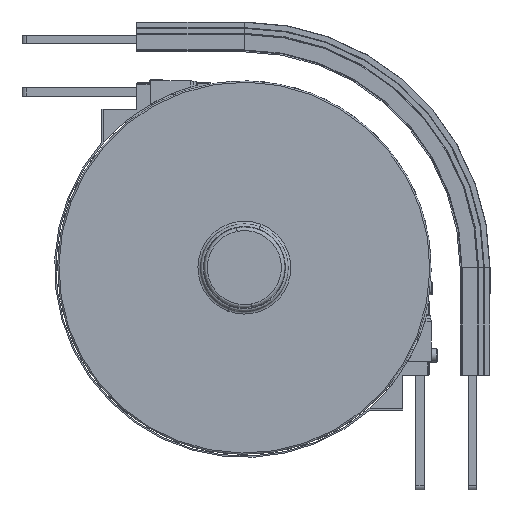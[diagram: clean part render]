
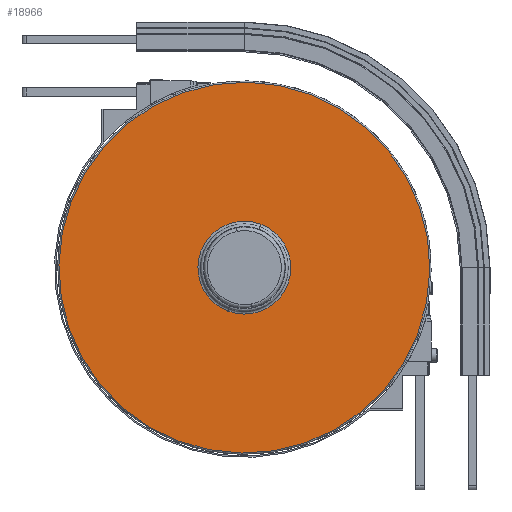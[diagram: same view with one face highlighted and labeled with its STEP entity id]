
A CAD part, front view. The second image highlights one B-rep face of the part: STEP entity #18966.
In plain terms, the highlighted planar face has unit normal (0, -1, 0) as drawn and (0, 0, 1) by its records, which use the part's own axes.
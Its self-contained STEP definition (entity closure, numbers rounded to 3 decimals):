
#2003 = VERTEX_POINT ( 'NONE', #14823 ) ;
#2136 = VERTEX_POINT ( 'NONE', #14889 ) ;
#4485 = AXIS2_PLACEMENT_3D ( 'NONE', #7452, #7453, #7454 ) ;
#4705 = AXIS2_PLACEMENT_3D ( 'NONE', #7834, #7835, #7836 ) ;
#4764 = CIRCLE ( 'NONE', #4485, 137.8 ) ;
#4874 = CIRCLE ( 'NONE', #4705, 34.5 ) ;
#7452 = CARTESIAN_POINT ( 'NONE',  ( 895.8, 0., 21.9 ) ) ;
#7453 = DIRECTION ( 'NONE',  ( 0., 0., 1. ) ) ;
#7454 = DIRECTION ( 'NONE',  ( 0., 1., 0. ) ) ;
#7834 = CARTESIAN_POINT ( 'NONE',  ( 895.8, 0., 21.9 ) ) ;
#7835 = DIRECTION ( 'NONE',  ( 0., 0., -1. ) ) ;
#7836 = DIRECTION ( 'NONE',  ( -1., 0., 0. ) ) ;
#14118 = EDGE_CURVE ( 'NONE', #2003, #29674, #4764, .T. ) ;
#14141 = EDGE_CURVE ( 'NONE', #2136, #29793, #4874, .T. ) ;
#14321 = ORIENTED_EDGE ( 'NONE', *, *, #16375, .T. ) ;
#14343 = ORIENTED_EDGE ( 'NONE', *, *, #14141, .T. ) ;
#14417 = ORIENTED_EDGE ( 'NONE', *, *, #16365, .T. ) ;
#14529 = ORIENTED_EDGE ( 'NONE', *, *, #14118, .T. ) ;
#14823 = CARTESIAN_POINT ( 'NONE',  ( 895.8, 137.8, 21.9 ) ) ;
#14889 = CARTESIAN_POINT ( 'NONE',  ( 861.3, 0., 21.9 ) ) ;
#15558 = AXIS2_PLACEMENT_3D ( 'NONE', #24054, #24050, #24065 ) ;
#16365 = EDGE_CURVE ( 'NONE', #29674, #2003, #40523, .T. ) ;
#16375 = EDGE_CURVE ( 'NONE', #29793, #2136, #40521, .T. ) ;
#18966 = ADVANCED_FACE ( 'NONE', ( #24045, #24058 ), #24061, .T. ) ;
#24045 = FACE_OUTER_BOUND ( 'NONE', #30091, .T. ) ;
#24050 = DIRECTION ( 'NONE',  ( 0., 0., 1. ) ) ;
#24054 = CARTESIAN_POINT ( 'NONE',  ( 981.95, 0., 21.9 ) ) ;
#24058 = FACE_BOUND ( 'NONE', #30209, .T. ) ;
#24061 = PLANE ( 'NONE',  #15558 ) ;
#24065 = DIRECTION ( 'NONE',  ( 1., 0., 0. ) ) ;
#29674 = VERTEX_POINT ( 'NONE', #39399 ) ;
#29793 = VERTEX_POINT ( 'NONE', #39518 ) ;
#30091 = EDGE_LOOP ( 'NONE', ( #14529, #14417 ) ) ;
#30209 = EDGE_LOOP ( 'NONE', ( #14343, #14321 ) ) ;
#36771 = CARTESIAN_POINT ( 'NONE',  ( 895.8, 0., 21.9 ) ) ;
#36772 = DIRECTION ( 'NONE',  ( 0., 0., 1. ) ) ;
#36773 = DIRECTION ( 'NONE',  ( 0., 1., 0. ) ) ;
#36799 = CARTESIAN_POINT ( 'NONE',  ( 895.8, 0., 21.9 ) ) ;
#36800 = DIRECTION ( 'NONE',  ( 0., 0., -1. ) ) ;
#36801 = DIRECTION ( 'NONE',  ( -1., 0., 0. ) ) ;
#39399 = CARTESIAN_POINT ( 'NONE',  ( 895.8, -137.8, 21.9 ) ) ;
#39518 = CARTESIAN_POINT ( 'NONE',  ( 930.3, 0., 21.9 ) ) ;
#40521 = CIRCLE ( 'NONE', #40540, 34.5 ) ;
#40523 = CIRCLE ( 'NONE', #40524, 137.8 ) ;
#40524 = AXIS2_PLACEMENT_3D ( 'NONE', #36771, #36772, #36773 ) ;
#40540 = AXIS2_PLACEMENT_3D ( 'NONE', #36799, #36800, #36801 ) ;
